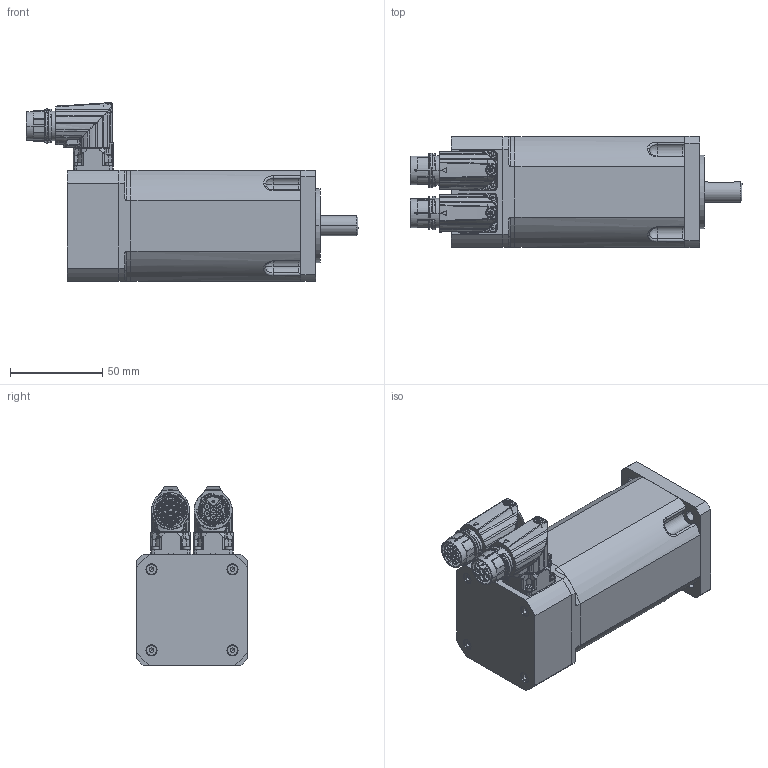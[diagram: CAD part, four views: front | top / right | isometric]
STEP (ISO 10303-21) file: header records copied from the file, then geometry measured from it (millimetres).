
FILE_DESCRIPTION(('CATIA V5 STEP Exchange'),'2;1');
FILE_NAME('C:\Documents and Settings\max\Documenti\sangallimotori\3d step\tg2\motore_DSM5_21_Freno.stp','2010-12-12T15:43:01+00:00',('none'),('none'),'CATIA Version 5 Release 10 (IN-8)','CATIA V5 STEP AP203',' none');
FILE_SCHEMA(('CONFIG_CONTROL_DESIGN'));
Assembly tree (27 placements, depth 0):
Bounding box: 179.73 x 60 x 96.56 mm (x, y, z)
Volume: 463143.9 mm3; surface area: 79247.2 mm2
Topology: 24 solids, 25 shells, 3631 faces, 11616 edges, 8096 vertices
Faces by surface type: cylinder 1383, bspline 816, plane 753, torus 287, cone 284, sphere 96, revolution 12
Entity records: 174469 total; most frequent: CARTESIAN_POINT 96620, ORIENTED_EDGE 21058, EDGE_CURVE 10542, DIRECTION 9127, VERTEX_POINT 7446, B_SPLINE_CURVE_WITH_KNOTS 5164, AXIS2_PLACEMENT_3D 4404, EDGE_LOOP 3323
